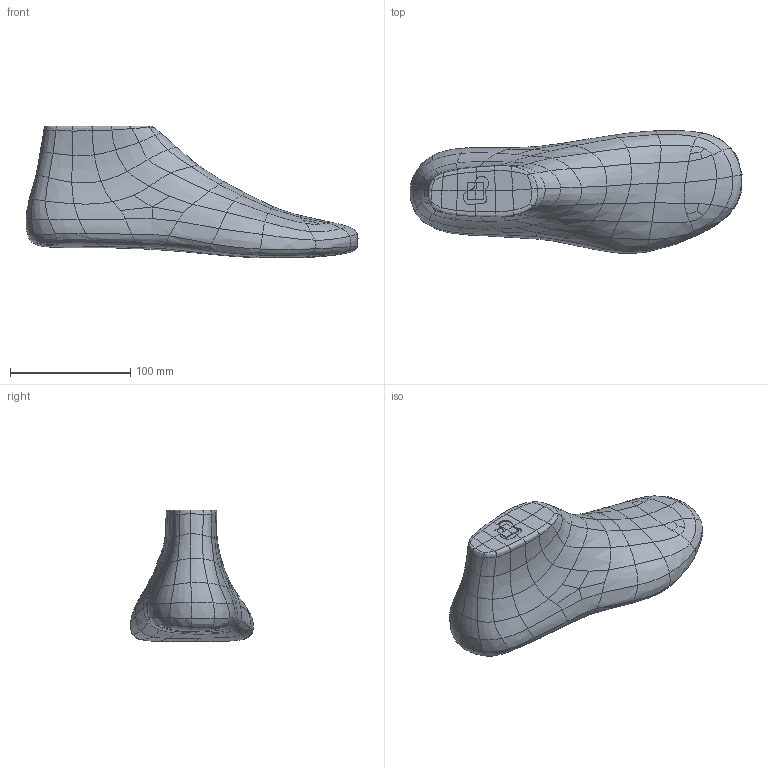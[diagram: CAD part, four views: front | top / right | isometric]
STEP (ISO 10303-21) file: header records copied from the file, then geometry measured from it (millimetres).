
FILE_DESCRIPTION(/* description */ (''),/* implementation_level */ '2;1');
FILE_NAME(License: CC BY-NC-ND 4.0 Statement: This work is licensed under a Creative Commons Attribution-NonCommercial-NoDerivatives 4.0 International License. Link: https://creativecommons.org/licenses/by-nc-nd/4.0/);
FILE_SCHEMA (('CONFIG_CONTROL_DESIGN'));
Length unit declared in the file: millimetre
Products named in the file (1): Document
Bounding box: 276.44 x 102.44 x 109.8 mm (x, y, z)
Volume: 1125357.8 mm3; surface area: 73276.9 mm2
Topology: 1 solids, 1 shells, 235 faces, 499 edges, 266 vertices
Faces by surface type: bspline 211, plane 24
Entity records: 15001 total; most frequent: CARTESIAN_POINT 11665, ORIENTED_EDGE 998, EDGE_CURVE 499, B_SPLINE_CURVE_WITH_KNOTS 499, VERTEX_POINT 266, ADVANCED_FACE 235, FACE_OUTER_BOUND 235, EDGE_LOOP 235
